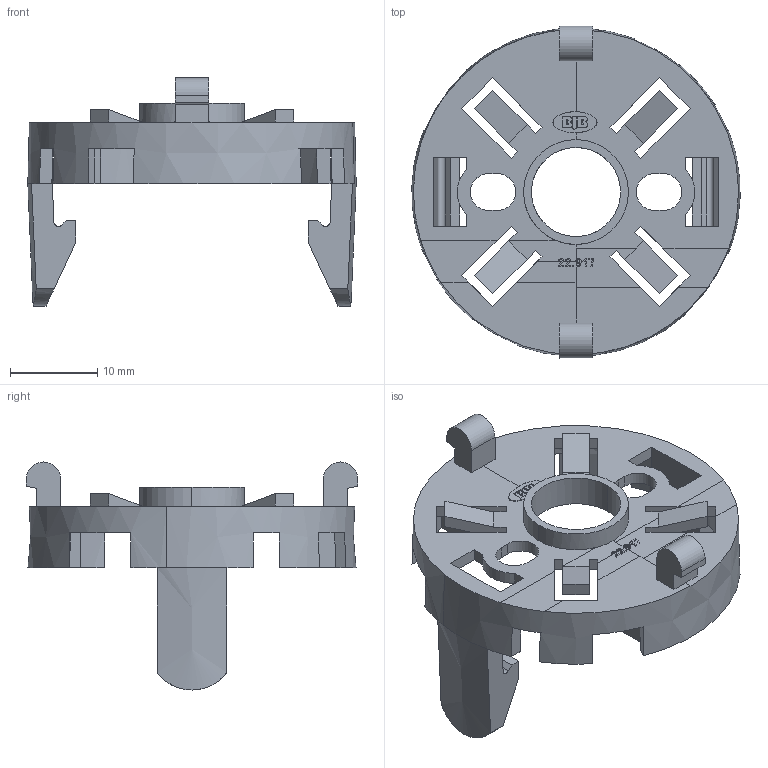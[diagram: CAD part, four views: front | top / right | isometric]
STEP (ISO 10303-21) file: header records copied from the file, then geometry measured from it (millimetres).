
FILE_DESCRIPTION(('Surface Model. B-Spline boundary curves.'),'1');
FILE_NAME('C:\Programme\CORETECH\in\22_917_-301.stp','2001-11-14 T',(' '),(' '),'STEP Interface v190.0 by CORETECH International','TRANS-3D v190.0 by CORETECH International',' ');
FILE_SCHEMA(('CONFIG_CONTROL_DESIGN'));
Length unit declared in the file: millimetre
Products named in the file (1): 22_917_-301
Bounding box: 37.58 x 38 x 26.1 mm (x, y, z)
Volume: 3347.3 mm3; surface area: 4352.1 mm2
Topology: 1 solids, 1 shells, 327 faces, 949 edges, 630 vertices
Faces by surface type: plane 281, cylinder 26, bspline 12, cone 8
Entity records: 10936 total; most frequent: CARTESIAN_POINT 2245, ORIENTED_EDGE 1898, DIRECTION 1652, EDGE_CURVE 949, VECTOR 822, LINE 822, VERTEX_POINT 630, AXIS2_PLACEMENT_3D 415
